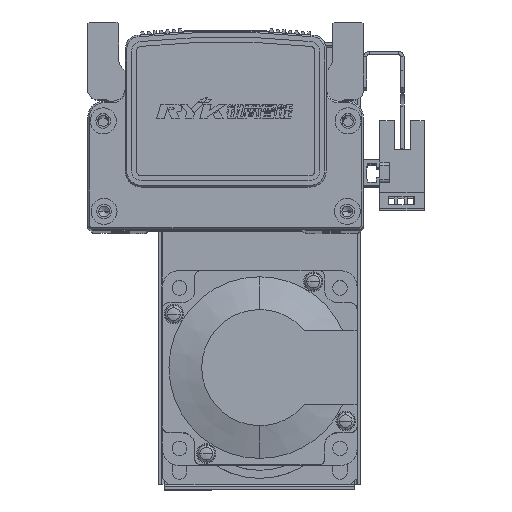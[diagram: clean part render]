
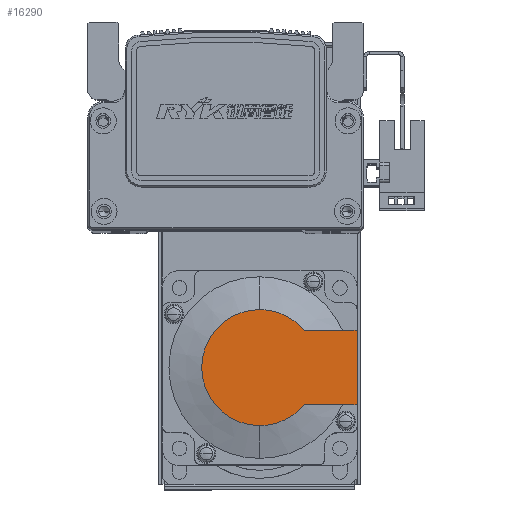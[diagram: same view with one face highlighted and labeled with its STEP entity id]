
A CAD part, top view. The second image highlights one B-rep face of the part: STEP entity #16290.
In plain terms, the highlighted planar face has unit normal (0, 0, 1) as drawn and (-1, 0, 0) by its records, which use the part's own axes.
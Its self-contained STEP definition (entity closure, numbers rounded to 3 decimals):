
#3188 = FACE_OUTER_BOUND ( 'NONE', #44644, .T. ) ;
#10015 = CARTESIAN_POINT ( 'NONE',  ( -99., 0., -17.881 ) ) ;
#10018 = CARTESIAN_POINT ( 'NONE',  ( -99., 13.735, 11.45 ) ) ;
#10114 = CARTESIAN_POINT ( 'NONE',  ( -99., 0., 17.881 ) ) ;
#10262 = CARTESIAN_POINT ( 'NONE',  ( -99., 30., -11.45 ) ) ;
#10271 = CARTESIAN_POINT ( 'NONE',  ( -99., 13.735, -11.45 ) ) ;
#10314 = CARTESIAN_POINT ( 'NONE',  ( -99., 30., 11.45 ) ) ;
#10998 = DIRECTION ( 'NONE',  ( -1., 0., 0. ) ) ;
#11005 = PLANE ( 'NONE',  #50223 ) ;
#11012 = CARTESIAN_POINT ( 'NONE',  ( -99., -8.941, 0. ) ) ;
#11033 = DIRECTION ( 'NONE',  ( 0., 0., 1. ) ) ;
#14073 = EDGE_CURVE ( 'NONE', #40205, #40238, #57598, .T. ) ;
#14074 = EDGE_CURVE ( 'NONE', #40238, #40013, #57629, .T. ) ;
#14092 = EDGE_CURVE ( 'NONE', #40246, #40018, #57808, .T. ) ;
#14126 = EDGE_CURVE ( 'NONE', #40205, #40246, #57977, .T. ) ;
#16290 = ADVANCED_FACE ( 'NONE', ( #3188 ), #11005, .T. ) ;
#22609 = ORIENTED_EDGE ( 'NONE', *, *, #14074, .T. ) ;
#22612 = ORIENTED_EDGE ( 'NONE', *, *, #14126, .F. ) ;
#22848 = ORIENTED_EDGE ( 'NONE', *, *, #14073, .T. ) ;
#22855 = ORIENTED_EDGE ( 'NONE', *, *, #14092, .F. ) ;
#22864 = ORIENTED_EDGE ( 'NONE', *, *, #50543, .T. ) ;
#22870 = ORIENTED_EDGE ( 'NONE', *, *, #50496, .T. ) ;
#23736 = AXIS2_PLACEMENT_3D ( 'NONE', #51359, #51371, #51364 ) ;
#23812 = AXIS2_PLACEMENT_3D ( 'NONE', #51397, #51430, #51402 ) ;
#25035 = CARTESIAN_POINT ( 'NONE',  ( -99., -8.941, -11.45 ) ) ;
#25042 = DIRECTION ( 'NONE',  ( -1., 0., 0. ) ) ;
#25050 = DIRECTION ( 'NONE',  ( 0., 0., -1. ) ) ;
#25054 = DIRECTION ( 'NONE',  ( 0., -1., 0. ) ) ;
#25055 = CARTESIAN_POINT ( 'NONE',  ( -99., 0., 0. ) ) ;
#25072 = CARTESIAN_POINT ( 'NONE',  ( -99., 0., 11.45 ) ) ;
#25087 = DIRECTION ( 'NONE',  ( 0., -1., 0. ) ) ;
#25176 = DIRECTION ( 'NONE',  ( 0., 0., 1. ) ) ;
#25191 = CARTESIAN_POINT ( 'NONE',  ( -99., 30., 25. ) ) ;
#40013 = VERTEX_POINT ( 'NONE', #10015 ) ;
#40018 = VERTEX_POINT ( 'NONE', #10018 ) ;
#40052 = VERTEX_POINT ( 'NONE', #10114 ) ;
#40205 = VERTEX_POINT ( 'NONE', #10262 ) ;
#40238 = VERTEX_POINT ( 'NONE', #10271 ) ;
#40246 = VERTEX_POINT ( 'NONE', #10314 ) ;
#44644 = EDGE_LOOP ( 'NONE', ( #22848, #22609, #22864, #22870, #22855, #22612 ) ) ;
#47319 = AXIS2_PLACEMENT_3D ( 'NONE', #25055, #25042, #25050 ) ;
#50223 = AXIS2_PLACEMENT_3D ( 'NONE', #11012, #10998, #11033 ) ;
#50496 = EDGE_CURVE ( 'NONE', #40052, #40018, #52167, .T. ) ;
#50543 = EDGE_CURVE ( 'NONE', #40013, #40052, #52121, .T. ) ;
#51359 = CARTESIAN_POINT ( 'NONE',  ( -99., 0., 0. ) ) ;
#51364 = DIRECTION ( 'NONE',  ( 0., 0., -1. ) ) ;
#51371 = DIRECTION ( 'NONE',  ( -1., 0., 0. ) ) ;
#51397 = CARTESIAN_POINT ( 'NONE',  ( -99., 0., 0. ) ) ;
#51402 = DIRECTION ( 'NONE',  ( 0., 0., -1. ) ) ;
#51430 = DIRECTION ( 'NONE',  ( -1., 0., 0. ) ) ;
#52121 = CIRCLE ( 'NONE', #23812, 17.881 ) ;
#52167 = CIRCLE ( 'NONE', #23736, 17.881 ) ;
#57574 = VECTOR ( 'NONE', #25054, 1000. ) ;
#57598 = LINE ( 'NONE', #25035, #57574 ) ;
#57629 = CIRCLE ( 'NONE', #47319, 17.881 ) ;
#57727 = VECTOR ( 'NONE', #25087, 1000. ) ;
#57808 = LINE ( 'NONE', #25072, #57727 ) ;
#57977 = LINE ( 'NONE', #25191, #57980 ) ;
#57980 = VECTOR ( 'NONE', #25176, 1000. ) ;
